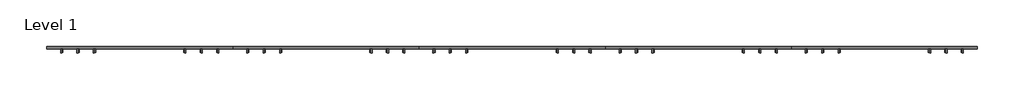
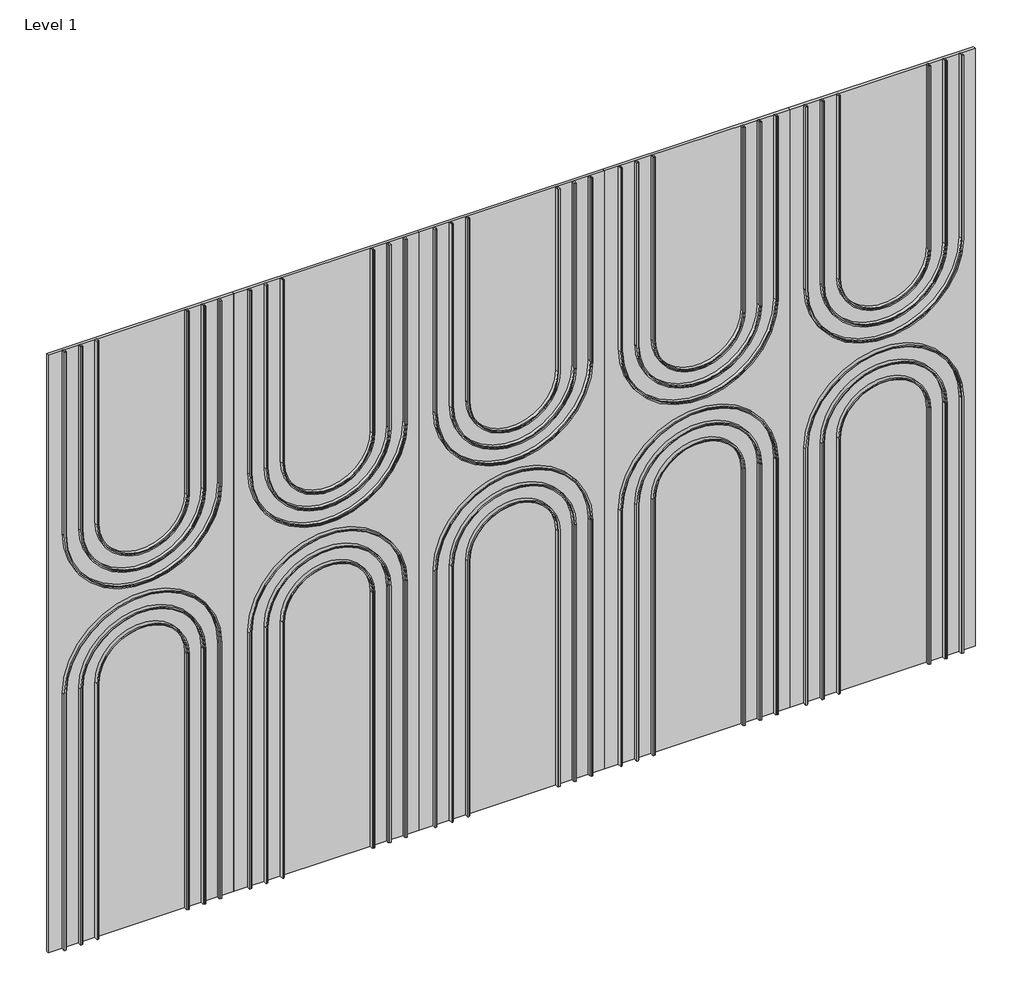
# One storey: 5 proxies.
"""IFC4 building model written with IfcOpenShell, lengths in millimetres."""

from ifc_helpers import new_model, si_unit, origin, place, context, project, spatial, transform, mapped, element, save
from components import specialty_equipment_f70de239

model = new_model("IFC4")

# Units and contexts
model_context = context("Model", 3, world=origin())
ifc_project = project(units=[si_unit("LENGTHUNIT", "METRE", prefix="MILLI")], contexts=[model_context])

# Site, building, storey
site = spatial("IfcSite", under=ifc_project)
building = spatial("IfcBuilding", under=site)
storey = spatial("IfcBuildingStorey", under=building, Name="Level 1", Elevation=0.0)

# Proxies
placement = place(None, origin())
specialty_equipment_shape = specialty_equipment_f70de239(model_context)
element("IfcBuildingElementProxy", 1, Name="FilzFelt_Arcade : Arcade", ObjectType="FilzFelt_Arcade : Arcade", at=placement, inside=storey, context=model_context, shape_type="MappedRepresentation", body=[
    mapped(specialty_equipment_shape, transform((-9732.2483575, 1246.0596115, 0.0), x_axis=(1.0, 0.0, 0.0), y_axis=(0.0, 0.0, 1.0), z_axis=(0.0, -1.0, 0.0))),
])
element("IfcBuildingElementProxy", 2, Name="FilzFelt_Arcade : Arcade", ObjectType="FilzFelt_Arcade : Arcade", at=placement, inside=storey, context=model_context, shape_type="MappedRepresentation", body=[
    mapped(specialty_equipment_shape, transform((-8868.6483575, 1246.0596115, 0.0), x_axis=(1.0, 0.0, 0.0), y_axis=(0.0, 0.0, 1.0), z_axis=(0.0, -1.0, 0.0))),
])
element("IfcBuildingElementProxy", 3, Name="FilzFelt_Arcade : Arcade", ObjectType="FilzFelt_Arcade : Arcade", at=placement, inside=storey, context=model_context, shape_type="MappedRepresentation", body=[
    mapped(specialty_equipment_shape, transform((-8005.0483575, 1246.0596115, 0.0), x_axis=(1.0, 0.0, 0.0), y_axis=(0.0, 0.0, 1.0), z_axis=(0.0, -1.0, 0.0))),
])
element("IfcBuildingElementProxy", 4, Name="FilzFelt_Arcade : Arcade", ObjectType="FilzFelt_Arcade : Arcade", at=placement, inside=storey, context=model_context, shape_type="MappedRepresentation", body=[
    mapped(specialty_equipment_shape, transform((-7141.4483575, 1246.0596115, 0.0), x_axis=(1.0, 0.0, 0.0), y_axis=(0.0, 0.0, 1.0), z_axis=(0.0, -1.0, 0.0))),
])
element("IfcBuildingElementProxy", 5, Name="FilzFelt_Arcade : Arcade", ObjectType="FilzFelt_Arcade : Arcade", at=placement, inside=storey, context=model_context, shape_type="MappedRepresentation", body=[
    mapped(specialty_equipment_shape, transform((-6277.8483575, 1246.0596115, 0.0), x_axis=(1.0, 0.0, 0.0), y_axis=(0.0, 0.0, 1.0), z_axis=(0.0, -1.0, 0.0))),
])

save(model, "model.ifc")
